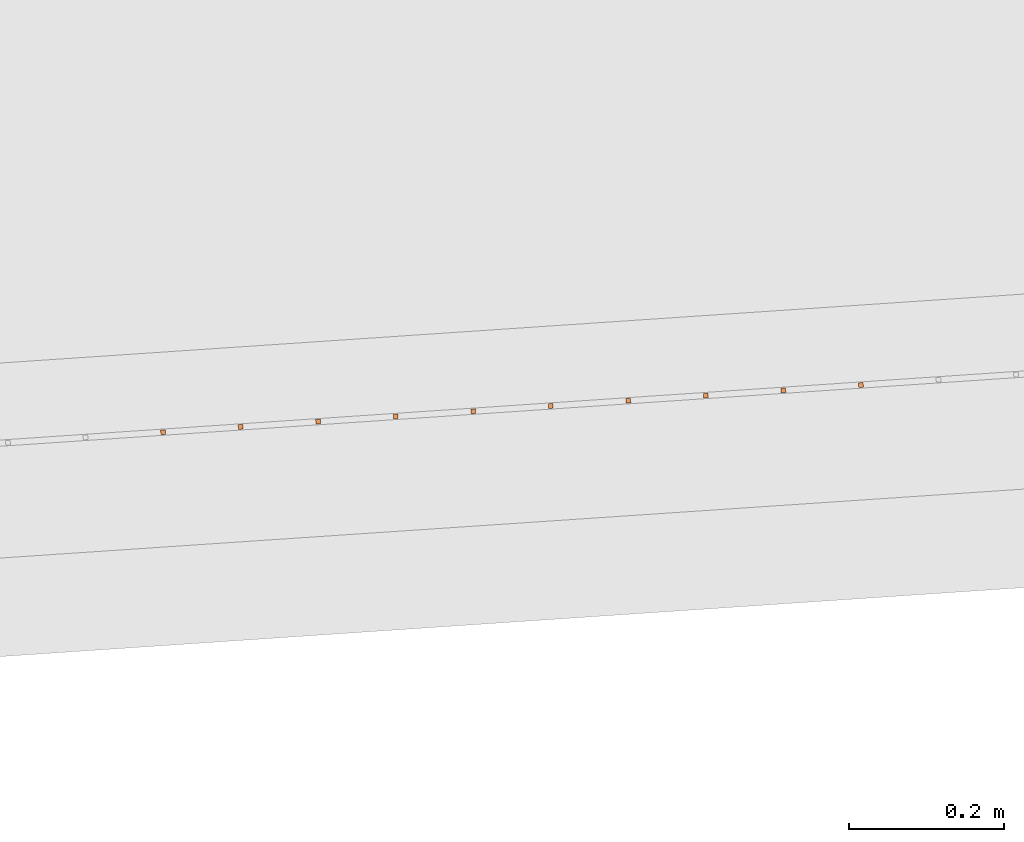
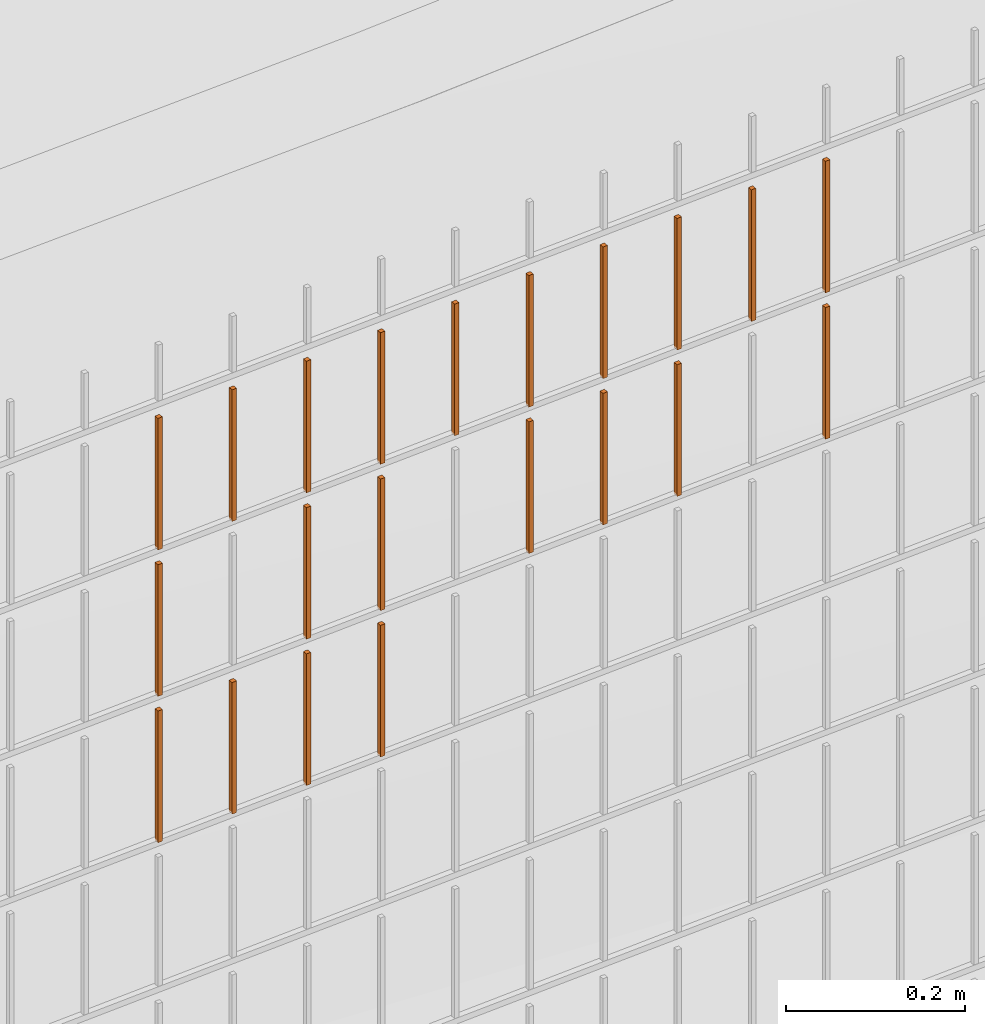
# One storey, part 385 of 1809: 21 proxies, 1 element without a shape of its own.
"""IFC2X3 building model written with IfcOpenShell, lengths in millimetres."""

from ifc_helpers import new_model, entity, si_unit, converted_unit, derived_unit, money_unit, direction, frame, origin_with_axes, place, context, subcontext, project, spatial, faceted_brep, source, transform, mapped, material, type_object, element, aggregate, save


model = new_model("IFC2X3")

# Units and contexts
model_context = context("Model", 3, precision=0.01, world=origin_with_axes(), true_north=direction((0.0, 1.0)))
body_context = subcontext(model_context, "Body", "Model", "MODEL_VIEW")
ifc_project = project(units=[si_unit("LENGTHUNIT", "METRE", prefix="MILLI"), si_unit("AREAUNIT", "SQUARE_METRE"), si_unit("VOLUMEUNIT", "CUBIC_METRE"), converted_unit("PLANEANGLEUNIT", "DEGREE", entity("IfcPlaneAngleMeasure", 0.0174532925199), si_unit("PLANEANGLEUNIT", "RADIAN"), dimensions=[0, 0, 0, 0, 0, 0, 0]), si_unit("SOLIDANGLEUNIT", "STERADIAN"), money_unit("EUR"), converted_unit("TIMEUNIT", "Year", entity("IfcTimeMeasure", 31556926.0), si_unit("TIMEUNIT", "SECOND"), dimensions=[0, 0, 1, 0, 0, 0, 0]), si_unit("MASSUNIT", "GRAM", prefix="KILO"), si_unit("THERMODYNAMICTEMPERATUREUNIT", "DEGREE_CELSIUS"), si_unit("LUMINOUSINTENSITYUNIT", "LUMEN"), si_unit("ENERGYUNIT", "JOULE", prefix="MEGA"), derived_unit("THERMALCONDUCTANCEUNIT", [(si_unit("POWERUNIT", "WATT"), 1), (si_unit("LENGTHUNIT", "METRE"), -1), (si_unit("THERMODYNAMICTEMPERATUREUNIT", "KELVIN"), -1)]), derived_unit("SPECIFICHEATCAPACITYUNIT", [(si_unit("ENERGYUNIT", "JOULE"), 1), (si_unit("MASSUNIT", "GRAM", prefix="KILO"), -1), (si_unit("THERMODYNAMICTEMPERATUREUNIT", "KELVIN"), -1)]), derived_unit("MASSDENSITYUNIT", [(si_unit("MASSUNIT", "GRAM", prefix="KILO"), 1), (si_unit("VOLUMEUNIT", "CUBIC_METRE"), -1)])], contexts=[model_context])

# Site, building, storey
site_placement = place(None, origin_with_axes())
site = spatial("IfcSite", under=ifc_project, at=site_placement, Name="Politse- ja Piirivalveameti ning Päästeameti ühishoone", CompositionType="ELEMENT")
building_placement = place(site_placement, origin_with_axes())
building = spatial("IfcBuilding", under=site, at=building_placement, Name="Politse- ja Piirivalveameti ning Päästeameti ühishoone", CompositionType="ELEMENT")
storey_placement = place(building_placement, origin_with_axes())
storey = spatial("IfcBuildingStorey", under=building, at=storey_placement, Name="Esimene korrus", CompositionType="ELEMENT", Elevation=0.0)

# Proxies
building_element_proxy_type_1 = type_object("IfcBuildingElementProxyType", Name="Railing Type", PredefinedType="NOTDEFINED")
proxy_1_placement = place(storey_placement, frame((89252.001212, -29183.4766571, 203.661247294), z_axis=(0.0, 0.0, 1.0), x_axis=(1.0, 0.0, 0.0)))
proxy_1 = element("IfcBuildingElementProxy", 1, at=proxy_1_placement, inside=storey, type_object=building_element_proxy_type_1, Name="PIIRDEAED")
ifc_material = material(Name="ET-03_Raud")
building_element_proxy_type_2 = type_object("IfcBuildingElementProxyType", Name="IfcBuildingElementProxy", PredefinedType="NOTDEFINED")
shared_shape_1 = source(origin_with_axes(), body_context, "Body", "Brep", [
    faceted_brep([(3.0, 3.0, -0.000752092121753), (-3.0, 3.0, -0.000752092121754), (-3.0, 3.0, 179.99926046), (3.0, 3.0, 179.99926046), (3.0, -3.0, 0.000752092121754), (-3.0, -3.0, 0.000752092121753), (-3.0, -3.0, 180.000764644), (3.0, -3.0, 180.000764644)], [[[0, 1, 2, 3]], [[0, 4, 5, 1]], [[1, 5, 6, 2]], [[3, 2, 6, 7]], [[4, 0, 3, 7]], [[5, 4, 7, 6]]]),
])
proxy_2_placement = place(proxy_1_placement, frame((-15192.0705547, -18323.9417948, 1623.41709482), z_axis=(0.0, 0.0, 1.0), x_axis=(1.0, 0.0, 0.0)))
proxy_2 = element("IfcBuildingElementProxy", 2, at=proxy_2_placement, type_object=building_element_proxy_type_2, material=ifc_material, Name="BALUSTER - 001", context=body_context, shape_type="MappedRepresentation", body=[
    mapped(shared_shape_1, transform((0.0, 0.0, 0.0), x_axis=(-0.0673926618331, 0.997726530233, 0.0), y_axis=(-0.997726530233, -0.0673926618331, 0.0), z_axis=(0.0, 0.0, 1.0))),
])
shared_shape_2 = source(origin_with_axes(), body_context, "Body", "Brep", [
    faceted_brep([(3.0, 3.0, -0.000752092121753), (-3.0, 3.0, -0.000752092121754), (-3.0, 3.0, 179.99926046), (3.0, 3.0, 179.99926046), (3.0, -3.0, 0.000752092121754), (-3.0, -3.0, 0.000752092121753), (-3.0, -3.0, 180.000764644), (3.0, -3.0, 180.000764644)], [[[0, 1, 2, 3]], [[0, 4, 5, 1]], [[1, 5, 6, 2]], [[3, 2, 6, 7]], [[4, 0, 3, 7]], [[5, 4, 7, 6]]]),
])
proxy_3_placement = place(proxy_1_placement, frame((-15192.0705547, -18323.9417948, 1823.41709482), z_axis=(0.0, 0.0, 1.0), x_axis=(1.0, 0.0, 0.0)))
proxy_3 = element("IfcBuildingElementProxy", 3, at=proxy_3_placement, type_object=building_element_proxy_type_2, material=ifc_material, Name="BALUSTER - 001", context=body_context, shape_type="MappedRepresentation", body=[
    mapped(shared_shape_2, transform((0.0, 0.0, 0.0), x_axis=(-0.0673926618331, 0.997726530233, 0.0), y_axis=(-0.997726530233, -0.0673926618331, 0.0), z_axis=(0.0, 0.0, 1.0))),
])
shared_shape_3 = source(origin_with_axes(), body_context, "Body", "Brep", [
    faceted_brep([(3.0, 3.0, -0.000752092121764), (-3.0, 3.0, -0.000752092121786), (-3.0, 3.0, 179.99926046), (3.0, 3.0, 179.99926046), (3.0, -3.0, 0.000752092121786), (-3.0, -3.0, 0.000752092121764), (-3.0, -3.0, 180.000764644), (3.0, -3.0, 180.000764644)], [[[0, 1, 2, 3]], [[0, 4, 5, 1]], [[1, 5, 6, 2]], [[3, 2, 6, 7]], [[4, 0, 3, 7]], [[5, 4, 7, 6]]]),
])
proxy_4_placement = place(proxy_1_placement, frame((-15591.1611668, -18350.8988595, 1823.31681587), z_axis=(0.0, 0.0, 1.0), x_axis=(1.0, 0.0, 0.0)))
proxy_4 = element("IfcBuildingElementProxy", 4, at=proxy_4_placement, type_object=building_element_proxy_type_2, material=ifc_material, Name="BALUSTER - 001", context=body_context, shape_type="MappedRepresentation", body=[
    mapped(shared_shape_3, transform((0.0, 0.0, 0.0), x_axis=(-0.0673926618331, 0.997726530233, 0.0), y_axis=(-0.997726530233, -0.0673926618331, 0.0), z_axis=(0.0, 0.0, 1.0))),
])
shared_shape_4 = source(origin_with_axes(), body_context, "Body", "Brep", [
    faceted_brep([(3.0, 3.0, -0.000752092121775), (-3.0, 3.0, -0.000752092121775), (-3.0, 3.0, 179.99926046), (3.0, 3.0, 179.99926046), (3.0, -3.0, 0.000752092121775), (-3.0, -3.0, 0.000752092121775), (-3.0, -3.0, 180.000764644), (3.0, -3.0, 180.000764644)], [[[0, 1, 2, 3]], [[0, 4, 5, 1]], [[1, 5, 6, 2]], [[3, 2, 6, 7]], [[4, 0, 3, 7]], [[5, 4, 7, 6]]]),
])
proxy_5_placement = place(proxy_1_placement, frame((-15890.4791259, -18371.1166581, 1623.24160666), z_axis=(0.0, 0.0, 1.0), x_axis=(1.0, 0.0, 0.0)))
proxy_5 = element("IfcBuildingElementProxy", 5, at=proxy_5_placement, type_object=building_element_proxy_type_2, material=ifc_material, Name="BALUSTER - 001", context=body_context, shape_type="MappedRepresentation", body=[
    mapped(shared_shape_4, transform((0.0, 0.0, 0.0), x_axis=(-0.0673926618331, 0.997726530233, 0.0), y_axis=(-0.997726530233, -0.0673926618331, 0.0), z_axis=(0.0, 0.0, 1.0))),
])
shared_shape_5 = source(origin_with_axes(), body_context, "Body", "Brep", [
    faceted_brep([(3.0, 3.0, -0.000752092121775), (-3.0, 3.0, -0.000752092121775), (-3.0, 3.0, 179.99926046), (3.0, 3.0, 179.99926046), (3.0, -3.0, 0.000752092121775), (-3.0, -3.0, 0.000752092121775), (-3.0, -3.0, 180.000764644), (3.0, -3.0, 180.000764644)], [[[0, 1, 2, 3]], [[0, 4, 5, 1]], [[1, 5, 6, 2]], [[3, 2, 6, 7]], [[4, 0, 3, 7]], [[5, 4, 7, 6]]]),
])
proxy_6_placement = place(proxy_1_placement, frame((-15690.9338198, -18357.6381257, 1823.29174614), z_axis=(0.0, 0.0, 1.0), x_axis=(1.0, 0.0, 0.0)))
proxy_6 = element("IfcBuildingElementProxy", 6, at=proxy_6_placement, type_object=building_element_proxy_type_2, material=ifc_material, Name="BALUSTER - 001", context=body_context, shape_type="MappedRepresentation", body=[
    mapped(shared_shape_5, transform((0.0, 0.0, 0.0), x_axis=(-0.0673926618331, 0.997726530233, 0.0), y_axis=(-0.997726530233, -0.0673926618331, 0.0), z_axis=(0.0, 0.0, 1.0))),
])
proxy_7_placement = place(proxy_1_placement, frame((-15890.4791259, -18371.1166581, 1823.24160666), z_axis=(0.0, 0.0, 1.0), x_axis=(1.0, 0.0, 0.0)))
proxy_7 = element("IfcBuildingElementProxy", 7, at=proxy_7_placement, type_object=building_element_proxy_type_2, material=ifc_material, Name="BALUSTER - 001", context=body_context, shape_type="MappedRepresentation", body=[
    mapped(shared_shape_5, transform((0.0, 0.0, 0.0), x_axis=(-0.0673926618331, 0.997726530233, 0.0), y_axis=(-0.997726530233, -0.0673926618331, 0.0), z_axis=(0.0, 0.0, 1.0))),
])
shared_shape_6 = source(origin_with_axes(), body_context, "Body", "Brep", [
    faceted_brep([(3.0, 3.0, -0.000752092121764), (-3.0, 3.0, -0.000752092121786), (-3.0, 3.0, 179.99926046), (3.0, 3.0, 179.99926046), (3.0, -3.0, 0.000752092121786), (-3.0, -3.0, 0.000752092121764), (-3.0, -3.0, 180.000764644), (3.0, -3.0, 180.000764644)], [[[0, 1, 2, 3]], [[0, 4, 5, 1]], [[1, 5, 6, 2]], [[3, 2, 6, 7]], [[4, 0, 3, 7]], [[5, 4, 7, 6]]]),
])
proxy_8_placement = place(proxy_1_placement, frame((-15391.6158608, -18337.4203271, 1823.36695535), z_axis=(0.0, 0.0, 1.0), x_axis=(1.0, 0.0, 0.0)))
proxy_8 = element("IfcBuildingElementProxy", 8, at=proxy_8_placement, type_object=building_element_proxy_type_2, material=ifc_material, Name="BALUSTER - 001", context=body_context, shape_type="MappedRepresentation", body=[
    mapped(shared_shape_6, transform((0.0, 0.0, 0.0), x_axis=(-0.0673926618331, 0.997726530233, 0.0), y_axis=(-0.997726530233, -0.0673926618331, 0.0), z_axis=(0.0, 0.0, 1.0))),
])
shared_shape_7 = source(origin_with_axes(), body_context, "Body", "Brep", [
    faceted_brep([(3.0, 3.0, -0.000752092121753), (-3.0, 3.0, -0.000752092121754), (-3.0, 3.0, 179.99926046), (3.0, 3.0, 179.99926046), (3.0, -3.0, 0.000752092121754), (-3.0, -3.0, 0.000752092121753), (-3.0, -3.0, 180.000764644), (3.0, -3.0, 180.000764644)], [[[0, 1, 2, 3]], [[0, 4, 5, 1]], [[1, 5, 6, 2]], [[3, 2, 6, 7]], [[4, 0, 3, 7]], [[5, 4, 7, 6]]]),
])
proxy_9_placement = place(proxy_1_placement, frame((-16090.0244319, -18384.5951904, 1423.19146719), z_axis=(0.0, 0.0, 1.0), x_axis=(1.0, 0.0, 0.0)))
proxy_9 = element("IfcBuildingElementProxy", 9, at=proxy_9_placement, type_object=building_element_proxy_type_2, material=ifc_material, Name="BALUSTER - 001", context=body_context, shape_type="MappedRepresentation", body=[
    mapped(shared_shape_7, transform((0.0, 0.0, 0.0), x_axis=(-0.0673926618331, 0.997726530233, 0.0), y_axis=(-0.997726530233, -0.0673926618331, 0.0), z_axis=(0.0, 0.0, 1.0))),
])
proxy_10_placement = place(proxy_1_placement, frame((-16090.0244319, -18384.5951904, 1623.19146719), z_axis=(0.0, 0.0, 1.0), x_axis=(1.0, 0.0, 0.0)))
proxy_10 = element("IfcBuildingElementProxy", 10, at=proxy_10_placement, type_object=building_element_proxy_type_2, material=ifc_material, Name="BALUSTER - 001", context=body_context, shape_type="MappedRepresentation", body=[
    mapped(shared_shape_7, transform((0.0, 0.0, 0.0), x_axis=(-0.0673926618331, 0.997726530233, 0.0), y_axis=(-0.997726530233, -0.0673926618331, 0.0), z_axis=(0.0, 0.0, 1.0))),
])
shared_shape_8 = source(origin_with_axes(), body_context, "Body", "Brep", [
    faceted_brep([(3.0, 3.0, -0.000752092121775), (-3.0, 3.0, -0.000752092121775), (-3.0, 3.0, 179.99926046), (3.0, 3.0, 179.99926046), (3.0, -3.0, 0.000752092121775), (-3.0, -3.0, 0.000752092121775), (-3.0, -3.0, 180.000764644), (3.0, -3.0, 180.000764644)], [[[0, 1, 2, 3]], [[0, 4, 5, 1]], [[1, 5, 6, 2]], [[3, 2, 6, 7]], [[4, 0, 3, 7]], [[5, 4, 7, 6]]]),
])
proxy_11_placement = place(proxy_1_placement, frame((-15890.4791259, -18371.1166581, 1423.24160666), z_axis=(0.0, 0.0, 1.0), x_axis=(1.0, 0.0, 0.0)))
proxy_11 = element("IfcBuildingElementProxy", 11, at=proxy_11_placement, type_object=building_element_proxy_type_2, material=ifc_material, Name="BALUSTER - 001", context=body_context, shape_type="MappedRepresentation", body=[
    mapped(shared_shape_8, transform((0.0, 0.0, 0.0), x_axis=(-0.0673926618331, 0.997726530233, 0.0), y_axis=(-0.997726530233, -0.0673926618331, 0.0), z_axis=(0.0, 0.0, 1.0))),
])
shared_shape_9 = source(origin_with_axes(), body_context, "Body", "Brep", [
    faceted_brep([(3.0, 3.0, -0.000752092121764), (-3.0, 3.0, -0.000752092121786), (-3.0, 3.0, 179.99926046), (3.0, 3.0, 179.99926046), (3.0, -3.0, 0.000752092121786), (-3.0, -3.0, 0.000752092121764), (-3.0, -3.0, 180.000764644), (3.0, -3.0, 180.000764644)], [[[0, 1, 2, 3]], [[0, 4, 5, 1]], [[1, 5, 6, 2]], [[3, 2, 6, 7]], [[4, 0, 3, 7]], [[5, 4, 7, 6]]]),
])
proxy_12_placement = place(proxy_1_placement, frame((-15391.6158608, -18337.4203271, 1623.36695535), z_axis=(0.0, 0.0, 1.0), x_axis=(1.0, 0.0, 0.0)))
proxy_12 = element("IfcBuildingElementProxy", 12, at=proxy_12_placement, type_object=building_element_proxy_type_2, material=ifc_material, Name="BALUSTER - 001", context=body_context, shape_type="MappedRepresentation", body=[
    mapped(shared_shape_9, transform((0.0, 0.0, 0.0), x_axis=(-0.0673926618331, 0.997726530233, 0.0), y_axis=(-0.997726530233, -0.0673926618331, 0.0), z_axis=(0.0, 0.0, 1.0))),
])
shared_shape_10 = source(origin_with_axes(), body_context, "Body", "Brep", [
    faceted_brep([(3.0, 3.0, -0.000752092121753), (-3.0, 3.0, -0.000752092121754), (-3.0, 3.0, 179.99926046), (3.0, 3.0, 179.99926046), (3.0, -3.0, 0.000752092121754), (-3.0, -3.0, 0.000752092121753), (-3.0, -3.0, 180.000764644), (3.0, -3.0, 180.000764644)], [[[0, 1, 2, 3]], [[0, 4, 5, 1]], [[1, 5, 6, 2]], [[3, 2, 6, 7]], [[4, 0, 3, 7]], [[5, 4, 7, 6]]]),
])
proxy_13_placement = place(proxy_1_placement, frame((-16090.0244319, -18384.5951904, 1823.19146719), z_axis=(0.0, 0.0, 1.0), x_axis=(1.0, 0.0, 0.0)))
proxy_13 = element("IfcBuildingElementProxy", 13, at=proxy_13_placement, type_object=building_element_proxy_type_2, material=ifc_material, Name="BALUSTER - 001", context=body_context, shape_type="MappedRepresentation", body=[
    mapped(shared_shape_10, transform((0.0, 0.0, 0.0), x_axis=(-0.0673926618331, 0.997726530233, 0.0), y_axis=(-0.997726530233, -0.0673926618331, 0.0), z_axis=(0.0, 0.0, 1.0))),
])
shared_shape_11 = source(origin_with_axes(), body_context, "Body", "Brep", [
    faceted_brep([(3.0, 3.0, -0.000752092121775), (-3.0, 3.0, -0.000752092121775), (-3.0, 3.0, 179.99926046), (3.0, 3.0, 179.99926046), (3.0, -3.0, 0.000752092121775), (-3.0, -3.0, 0.000752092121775), (-3.0, -3.0, 180.000764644), (3.0, -3.0, 180.000764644)], [[[0, 1, 2, 3]], [[0, 4, 5, 1]], [[1, 5, 6, 2]], [[3, 2, 6, 7]], [[4, 0, 3, 7]], [[5, 4, 7, 6]]]),
])
proxy_14_placement = place(proxy_1_placement, frame((-15291.8432077, -18330.681061, 1823.39202509), z_axis=(0.0, 0.0, 1.0), x_axis=(1.0, 0.0, 0.0)))
proxy_14 = element("IfcBuildingElementProxy", 14, at=proxy_14_placement, type_object=building_element_proxy_type_2, material=ifc_material, Name="BALUSTER - 001", context=body_context, shape_type="MappedRepresentation", body=[
    mapped(shared_shape_11, transform((0.0, 0.0, 0.0), x_axis=(-0.0673926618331, 0.997726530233, 0.0), y_axis=(-0.997726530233, -0.0673926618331, 0.0), z_axis=(0.0, 0.0, 1.0))),
])
shared_shape_12 = source(origin_with_axes(), body_context, "Body", "Brep", [
    faceted_brep([(3.0, 3.0, -0.000752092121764), (-3.0, 3.0, -0.000752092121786), (-3.0, 3.0, 179.99926046), (3.0, 3.0, 179.99926046), (3.0, -3.0, 0.000752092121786), (-3.0, -3.0, 0.000752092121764), (-3.0, -3.0, 180.000764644), (3.0, -3.0, 180.000764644)], [[[0, 1, 2, 3]], [[0, 4, 5, 1]], [[1, 5, 6, 2]], [[3, 2, 6, 7]], [[4, 0, 3, 7]], [[5, 4, 7, 6]]]),
])
proxy_15_placement = place(proxy_1_placement, frame((-15591.1611668, -18350.8988595, 1623.31681587), z_axis=(0.0, 0.0, 1.0), x_axis=(1.0, 0.0, 0.0)))
proxy_15 = element("IfcBuildingElementProxy", 15, at=proxy_15_placement, type_object=building_element_proxy_type_2, material=ifc_material, Name="BALUSTER - 001", context=body_context, shape_type="MappedRepresentation", body=[
    mapped(shared_shape_12, transform((0.0, 0.0, 0.0), x_axis=(-0.0673926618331, 0.997726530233, 0.0), y_axis=(-0.997726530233, -0.0673926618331, 0.0), z_axis=(0.0, 0.0, 1.0))),
])
proxy_16_placement = place(proxy_1_placement, frame((-15491.3885138, -18344.1595933, 1823.34188561), z_axis=(0.0, 0.0, 1.0), x_axis=(1.0, 0.0, 0.0)))
proxy_16 = element("IfcBuildingElementProxy", 16, at=proxy_16_placement, type_object=building_element_proxy_type_2, material=ifc_material, Name="BALUSTER - 001", context=body_context, shape_type="MappedRepresentation", body=[
    mapped(shared_shape_12, transform((0.0, 0.0, 0.0), x_axis=(-0.0673926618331, 0.997726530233, 0.0), y_axis=(-0.997726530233, -0.0673926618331, 0.0), z_axis=(0.0, 0.0, 1.0))),
])
shared_shape_13 = source(origin_with_axes(), body_context, "Body", "Brep", [
    faceted_brep([(3.0, 3.0, -0.000752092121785), (-3.0, 3.0, -0.000752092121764), (-3.0, 3.0, 179.99926046), (3.0, 3.0, 179.99926046), (3.0, -3.0, 0.000752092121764), (-3.0, -3.0, 0.000752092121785), (-3.0, -3.0, 180.000764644), (3.0, -3.0, 180.000764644)], [[[0, 1, 2, 3]], [[0, 4, 5, 1]], [[1, 5, 6, 2]], [[3, 2, 6, 7]], [[4, 0, 3, 7]], [[5, 4, 7, 6]]]),
])
proxy_17_placement = place(proxy_1_placement, frame((-15790.7064729, -18364.3773919, 1823.2666764), z_axis=(0.0, 0.0, 1.0), x_axis=(1.0, 0.0, 0.0)))
proxy_17 = element("IfcBuildingElementProxy", 17, at=proxy_17_placement, type_object=building_element_proxy_type_2, material=ifc_material, Name="BALUSTER - 001", context=body_context, shape_type="MappedRepresentation", body=[
    mapped(shared_shape_13, transform((0.0, 0.0, 0.0), x_axis=(-0.0673926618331, 0.997726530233, 0.0), y_axis=(-0.997726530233, -0.0673926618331, 0.0), z_axis=(0.0, 0.0, 1.0))),
])
shared_shape_14 = source(origin_with_axes(), body_context, "Body", "Brep", [
    faceted_brep([(3.0, 3.0, -0.000752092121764), (-3.0, 3.0, -0.000752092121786), (-3.0, 3.0, 179.99926046), (3.0, 3.0, 179.99926046), (3.0, -3.0, 0.000752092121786), (-3.0, -3.0, 0.000752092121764), (-3.0, -3.0, 180.000764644), (3.0, -3.0, 180.000764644)], [[[0, 1, 2, 3]], [[0, 4, 5, 1]], [[1, 5, 6, 2]], [[3, 2, 6, 7]], [[4, 0, 3, 7]], [[5, 4, 7, 6]]]),
])
proxy_18_placement = place(proxy_1_placement, frame((-15491.3885138, -18344.1595933, 1623.34188561), z_axis=(0.0, 0.0, 1.0), x_axis=(1.0, 0.0, 0.0)))
proxy_18 = element("IfcBuildingElementProxy", 18, at=proxy_18_placement, type_object=building_element_proxy_type_2, material=ifc_material, Name="BALUSTER - 001", context=body_context, shape_type="MappedRepresentation", body=[
    mapped(shared_shape_14, transform((0.0, 0.0, 0.0), x_axis=(-0.0673926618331, 0.997726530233, 0.0), y_axis=(-0.997726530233, -0.0673926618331, 0.0), z_axis=(0.0, 0.0, 1.0))),
])
shared_shape_15 = source(origin_with_axes(), body_context, "Body", "Brep", [
    faceted_brep([(3.0, 3.0, -0.000752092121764), (-3.0, 3.0, -0.000752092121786), (-3.0, 3.0, 179.99926046), (3.0, 3.0, 179.99926046), (3.0, -3.0, 0.000752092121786), (-3.0, -3.0, 0.000752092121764), (-3.0, -3.0, 180.000764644), (3.0, -3.0, 180.000764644)], [[[0, 1, 2, 3]], [[0, 4, 5, 1]], [[1, 5, 6, 2]], [[3, 2, 6, 7]], [[4, 0, 3, 7]], [[5, 4, 7, 6]]]),
])
proxy_19_placement = place(proxy_1_placement, frame((-15990.2517789, -18377.8559242, 1823.21653692), z_axis=(0.0, 0.0, 1.0), x_axis=(1.0, 0.0, 0.0)))
proxy_19 = element("IfcBuildingElementProxy", 19, at=proxy_19_placement, type_object=building_element_proxy_type_2, material=ifc_material, Name="BALUSTER - 001", context=body_context, shape_type="MappedRepresentation", body=[
    mapped(shared_shape_15, transform((0.0, 0.0, 0.0), x_axis=(-0.0673926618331, 0.997726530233, 0.0), y_axis=(-0.997726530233, -0.0673926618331, 0.0), z_axis=(0.0, 0.0, 1.0))),
])
shared_shape_16 = source(origin_with_axes(), body_context, "Body", "Brep", [
    faceted_brep([(3.0, 3.0, -0.000752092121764), (-3.0, 3.0, -0.000752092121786), (-3.0, 3.0, 179.99926046), (3.0, 3.0, 179.99926046), (3.0, -3.0, 0.000752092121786), (-3.0, -3.0, 0.000752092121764), (-3.0, -3.0, 180.000764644), (3.0, -3.0, 180.000764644)], [[[0, 1, 2, 3]], [[0, 4, 5, 1]], [[1, 5, 6, 2]], [[3, 2, 6, 7]], [[4, 0, 3, 7]], [[5, 4, 7, 6]]]),
])
proxy_20_placement = place(proxy_1_placement, frame((-15990.2517789, -18377.8559242, 1423.21653692), z_axis=(0.0, 0.0, 1.0), x_axis=(1.0, 0.0, 0.0)))
proxy_20 = element("IfcBuildingElementProxy", 20, at=proxy_20_placement, type_object=building_element_proxy_type_2, material=ifc_material, Name="BALUSTER - 001", context=body_context, shape_type="MappedRepresentation", body=[
    mapped(shared_shape_16, transform((0.0, 0.0, 0.0), x_axis=(-0.0673926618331, 0.997726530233, 0.0), y_axis=(-0.997726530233, -0.0673926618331, 0.0), z_axis=(0.0, 0.0, 1.0))),
])
shared_shape_17 = source(origin_with_axes(), body_context, "Body", "Brep", [
    faceted_brep([(3.0, 3.0, -0.000752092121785), (-3.0, 3.0, -0.000752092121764), (-3.0, 3.0, 179.99926046), (3.0, 3.0, 179.99926046), (3.0, -3.0, 0.000752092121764), (-3.0, -3.0, 0.000752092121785), (-3.0, -3.0, 180.000764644), (3.0, -3.0, 180.000764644)], [[[0, 1, 2, 3]], [[0, 4, 5, 1]], [[1, 5, 6, 2]], [[3, 2, 6, 7]], [[4, 0, 3, 7]], [[5, 4, 7, 6]]]),
])
proxy_21_placement = place(proxy_1_placement, frame((-15790.7064729, -18364.3773919, 1423.2666764), z_axis=(0.0, 0.0, 1.0), x_axis=(1.0, 0.0, 0.0)))
proxy_21 = element("IfcBuildingElementProxy", 21, at=proxy_21_placement, type_object=building_element_proxy_type_2, material=ifc_material, Name="BALUSTER - 001", context=body_context, shape_type="MappedRepresentation", body=[
    mapped(shared_shape_17, transform((0.0, 0.0, 0.0), x_axis=(-0.0673926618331, 0.997726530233, 0.0), y_axis=(-0.997726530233, -0.0673926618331, 0.0), z_axis=(0.0, 0.0, 1.0))),
])
proxy_22_placement = place(proxy_1_placement, frame((-15790.7064729, -18364.3773919, 1623.2666764), z_axis=(0.0, 0.0, 1.0), x_axis=(1.0, 0.0, 0.0)))
proxy_22 = element("IfcBuildingElementProxy", 22, at=proxy_22_placement, type_object=building_element_proxy_type_2, material=ifc_material, Name="BALUSTER - 001", context=body_context, shape_type="MappedRepresentation", body=[
    mapped(shared_shape_17, transform((0.0, 0.0, 0.0), x_axis=(-0.0673926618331, 0.997726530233, 0.0), y_axis=(-0.997726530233, -0.0673926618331, 0.0), z_axis=(0.0, 0.0, 1.0))),
])
aggregate(proxy_1, [proxy_21, proxy_11, proxy_20, proxy_9, proxy_2, proxy_12, proxy_18, proxy_15, proxy_22, proxy_5, proxy_10, proxy_3, proxy_14, proxy_8, proxy_16, proxy_4, proxy_6, proxy_17, proxy_7, proxy_19, proxy_13])

save(model, "model.ifc")
